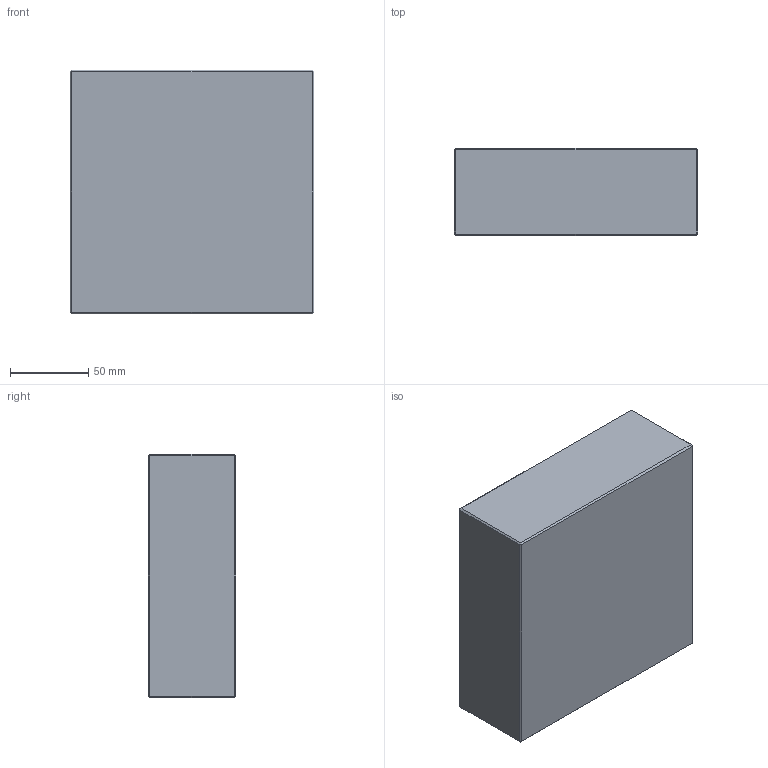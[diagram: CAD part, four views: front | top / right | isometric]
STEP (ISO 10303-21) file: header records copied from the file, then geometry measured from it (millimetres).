
FILE_DESCRIPTION (( 'STEP AP214' ), '1' );
FILE_NAME ('PC-P-156x156x56.STEP', '2020-03-31T16:39:24', ( 'August' ), ( '' ), 'SwSTEP 2.0', 'SolidWorks 2018', '' );
FILE_SCHEMA (( 'AUTOMOTIVE_DESIGN' ));
Length unit declared in the file: millimetre
Products named in the file (1): PC-P-156x156x56
Bounding box: 156 x 56 x 156 mm (x, y, z)
Volume: 1362085.3 mm3; surface area: 82750.7 mm2
Topology: 1 solids, 1 shells, 26 faces, 48 edges, 24 vertices
Faces by surface type: plane 26
Entity records: 634 total; most frequent: DIRECTION 102, CARTESIAN_POINT 99, ORIENTED_EDGE 96, EDGE_CURVE 48, VECTOR 48, LINE 48, AXIS2_PLACEMENT_3D 27, PLANE 26
